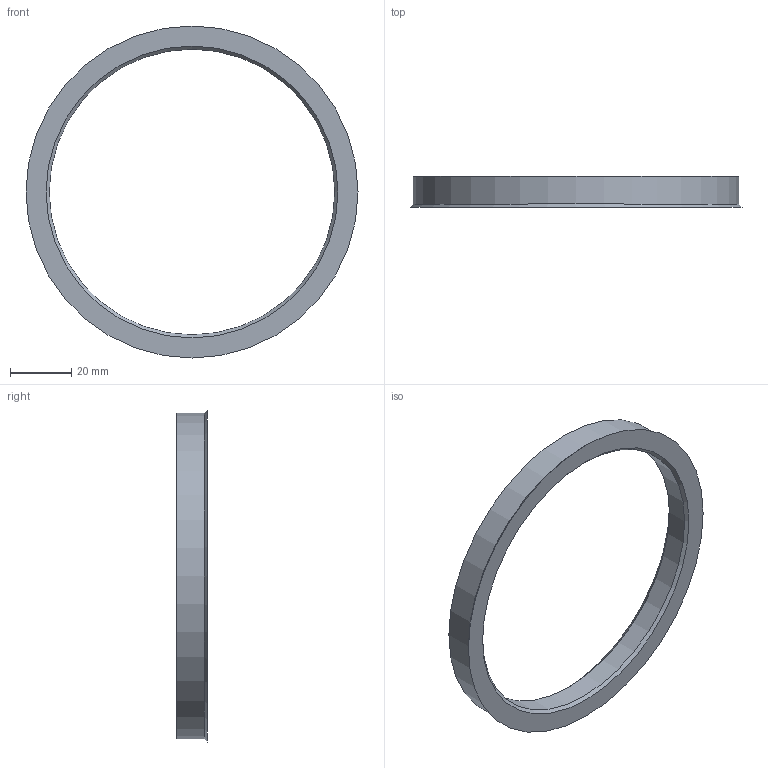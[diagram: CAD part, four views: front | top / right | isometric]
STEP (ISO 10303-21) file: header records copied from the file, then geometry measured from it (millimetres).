
FILE_DESCRIPTION(/* description */ (''),/* implementation_level */ '2;1');
FILE_NAME(/* name */ 'G:\CAD Library\Team Tasks\DIPP\11th Intake\Bradley Coles\Design Drafting\Random\Hub Rings\ipt\HubRing_106.2-93.1.stp',/* time_stamp */ '2025-07-22T13:42:22+08:00',/* author */ ('BCOLES'),/* organization */ (''),/* preprocessor_version */ 'ST-DEVELOPER v18.1',/* originating_system */ 'Autodesk Inventor 2022',/* authorisation */ '');
FILE_SCHEMA (('AUTOMOTIVE_DESIGN { 1 0 10303 214 3 1 1 }'));
Length unit declared in the file: millimetre
Products named in the file (1): HubRing_106.2-93.1
Bounding box: 108.2 x 10 x 108.2 mm (x, y, z)
Volume: 19932.6 mm3; surface area: 10334.2 mm2
Topology: 1 solids, 1 shells, 7 faces, 13 edges, 8 vertices
Faces by surface type: cone 3, cylinder 2, plane 2
Full cylindrical faces by diameter (mm): 93.1 x1, 106.2 x1
Entity records: 226 total; most frequent: DIRECTION 37, CARTESIAN_POINT 29, ORIENTED_EDGE 26, AXIS2_PLACEMENT_3D 16, EDGE_CURVE 13, EDGE_LOOP 9, CIRCLE 8, VERTEX_POINT 8
